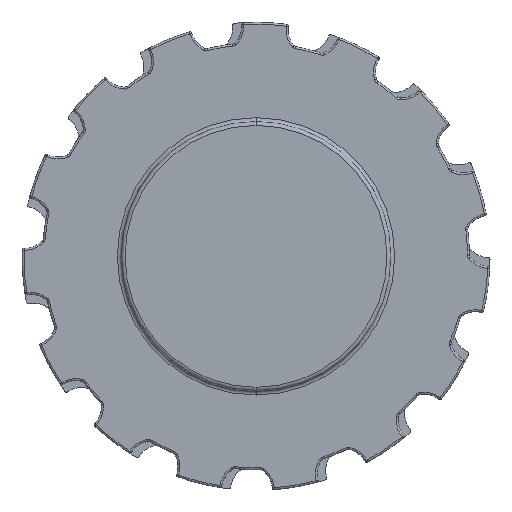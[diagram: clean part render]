
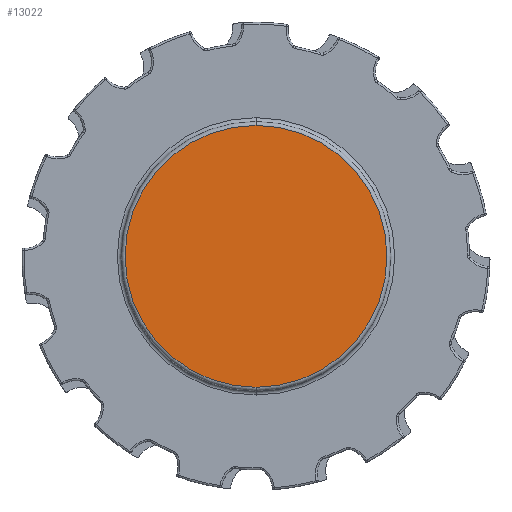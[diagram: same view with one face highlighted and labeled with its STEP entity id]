
A CAD part, left-side view. The second image highlights one B-rep face of the part: STEP entity #13022.
In plain terms, the highlighted planar face has unit normal (-1, 0, 0).
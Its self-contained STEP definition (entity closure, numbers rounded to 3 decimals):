
#937=CARTESIAN_POINT('',(-12.5,0.,0.));
#938=DIRECTION('',(-1.,0.,0.));
#939=DIRECTION('',(0.,0.,-1.));
#940=AXIS2_PLACEMENT_3D('',#937,#938,#939);
#942=CARTESIAN_POINT('',(-12.5,0.,0.));
#943=DIRECTION('',(1.,0.,0.));
#944=DIRECTION('',(0.,0.,-1.));
#945=AXIS2_PLACEMENT_3D('',#942,#943,#944);
#9666=CARTESIAN_POINT('',(-12.5,0.,-34.));
#9667=VERTEX_POINT('',#9666);
#9674=CARTESIAN_POINT('',(-12.5,0.,34.));
#9675=VERTEX_POINT('',#9674);
#13013=CARTESIAN_POINT('',(-12.5,0.,0.));
#13014=DIRECTION('',(1.,0.,0.));
#13015=DIRECTION('',(0.,0.,1.));
#13016=AXIS2_PLACEMENT_3D('',#13013,#13014,#13015);
#13017=PLANE('',#13016);
#13018=ORIENTED_EDGE('',*,*,#13006,.F.);
#13019=ORIENTED_EDGE('',*,*,#12995,.T.);
#13020=EDGE_LOOP('',(#13018,#13019));
#13021=FACE_OUTER_BOUND('',#13020,.F.);
#13022=ADVANCED_FACE('',(#13021),#13017,.F.);
#941=CIRCLE('',#940,34.);
#946=CIRCLE('',#945,34.);
#12995=EDGE_CURVE('',#9667,#9675,#946,.T.);
#13006=EDGE_CURVE('',#9667,#9675,#941,.T.);
